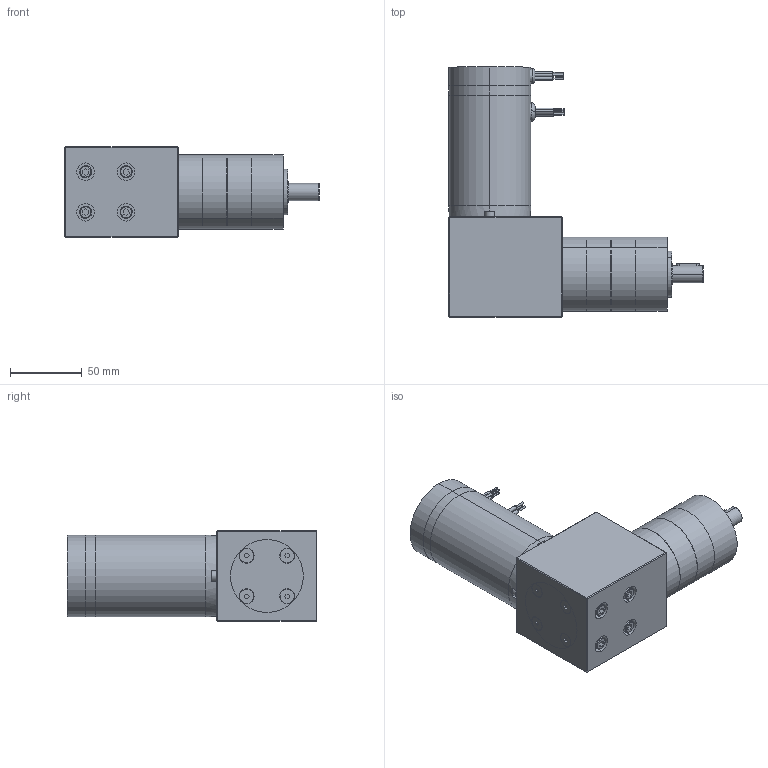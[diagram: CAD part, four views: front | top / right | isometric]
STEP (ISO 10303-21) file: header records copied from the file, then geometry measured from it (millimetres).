
FILE_DESCRIPTION (( 'STEP AP203' ), '1' );
FILE_NAME ('bl58487gra3.step', '2018-12-07T19:00:41', ( '' ), ( '' ), 'SwSTEP 2.0', 'SolidWorks 2017', '' );
FILE_SCHEMA (( 'CONFIG_CONTROL_DESIGN' ));
Length unit declared in the file: inch
Products named in the file (1): bl58487gra3
Bounding box: 177.37 x 174.42 x 63.5 mm (x, y, z)
Volume: 769571.1 mm3; surface area: 126024.1 mm2
Topology: 30 solids, 30 shells, 620 faces, 1336 edges, 832 vertices
Faces by surface type: plane 266, cylinder 240, cone 109, torus 5
Entity records: 16949 total; most frequent: DIRECTION 3116, CARTESIAN_POINT 2967, ORIENTED_EDGE 2624, EDGE_CURVE 1312, AXIS2_PLACEMENT_3D 1195, VERTEX_POINT 832, EDGE_LOOP 742, VECTOR 726
